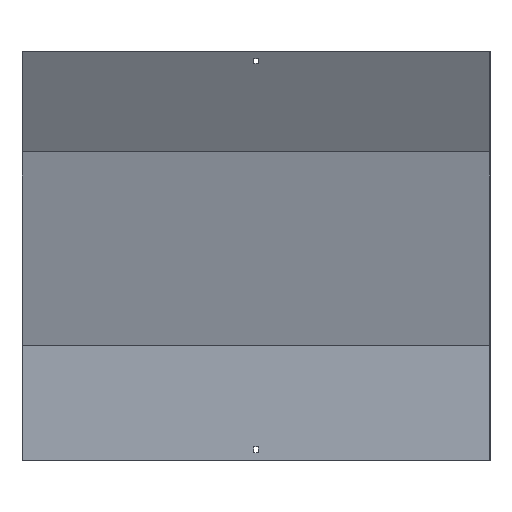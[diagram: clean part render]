
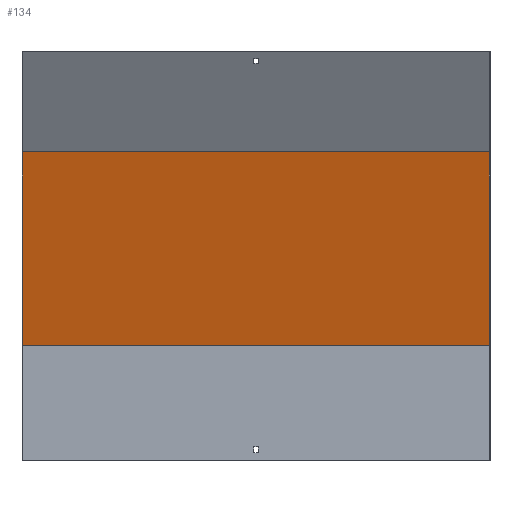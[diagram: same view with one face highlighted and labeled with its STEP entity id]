
A CAD part, front view. The second image highlights one B-rep face of the part: STEP entity #134.
In plain terms, the highlighted planar face has unit normal (0, -0.966, -0.259).
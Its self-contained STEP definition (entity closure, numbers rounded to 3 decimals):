
#29 = CARTESIAN_POINT ( 'NONE',  ( -350., 60.37, 16.176 ) ) ;
#38 = DIRECTION ( 'NONE',  ( 0., 0.259, -0.966 ) ) ;
#122 = CARTESIAN_POINT ( 'NONE',  ( 350., 18.5, 172.436 ) ) ;
#134 = ADVANCED_FACE ( 'NONE', ( #484 ), #495, .T. ) ;
#137 = EDGE_CURVE ( 'NONE', #271, #767, #613, .T. ) ;
#167 = DIRECTION ( 'NONE',  ( 0., -0.966, -0.259 ) ) ;
#189 = VERTEX_POINT ( 'NONE', #559 ) ;
#221 = DIRECTION ( 'NONE',  ( 0., -0.259, 0.966 ) ) ;
#245 = DIRECTION ( 'NONE',  ( 0., -0.259, 0.966 ) ) ;
#267 = VECTOR ( 'NONE', #553, 1000. ) ;
#271 = VERTEX_POINT ( 'NONE', #778 ) ;
#299 = CARTESIAN_POINT ( 'NONE',  ( 351.5, -59.889, 464.987 ) ) ;
#322 = EDGE_CURVE ( 'NONE', #189, #767, #726, .T. ) ;
#327 = EDGE_LOOP ( 'NONE', ( #710, #512, #675, #779 ) ) ;
#330 = LINE ( 'NONE', #723, #357 ) ;
#357 = VECTOR ( 'NONE', #707, 1000. ) ;
#402 = CARTESIAN_POINT ( 'NONE',  ( -350., -59.889, 464.987 ) ) ;
#454 = AXIS2_PLACEMENT_3D ( 'NONE', #758, #167, #38 ) ;
#484 = FACE_OUTER_BOUND ( 'NONE', #327, .T. ) ;
#495 = PLANE ( 'NONE',  #454 ) ;
#510 = EDGE_CURVE ( 'NONE', #849, #271, #330, .T. ) ;
#512 = ORIENTED_EDGE ( 'NONE', *, *, #510, .F. ) ;
#529 = LINE ( 'NONE', #713, #579 ) ;
#553 = DIRECTION ( 'NONE',  ( -1., 0., 0. ) ) ;
#559 = CARTESIAN_POINT ( 'NONE',  ( 350., -59.889, 464.987 ) ) ;
#579 = VECTOR ( 'NONE', #245, 1000. ) ;
#613 = LINE ( 'NONE', #29, #652 ) ;
#652 = VECTOR ( 'NONE', #221, 1000. ) ;
#675 = ORIENTED_EDGE ( 'NONE', *, *, #800, .T. ) ;
#707 = DIRECTION ( 'NONE',  ( -1., 0., 0. ) ) ;
#710 = ORIENTED_EDGE ( 'NONE', *, *, #137, .F. ) ;
#713 = CARTESIAN_POINT ( 'NONE',  ( 350., 60.37, 16.176 ) ) ;
#723 = CARTESIAN_POINT ( 'NONE',  ( 351.5, 18.5, 172.436 ) ) ;
#726 = LINE ( 'NONE', #299, #267 ) ;
#758 = CARTESIAN_POINT ( 'NONE',  ( 351.5, 17.87, 174.788 ) ) ;
#767 = VERTEX_POINT ( 'NONE', #402 ) ;
#778 = CARTESIAN_POINT ( 'NONE',  ( -350., 18.5, 172.436 ) ) ;
#779 = ORIENTED_EDGE ( 'NONE', *, *, #322, .T. ) ;
#800 = EDGE_CURVE ( 'NONE', #849, #189, #529, .T. ) ;
#849 = VERTEX_POINT ( 'NONE', #122 ) ;
